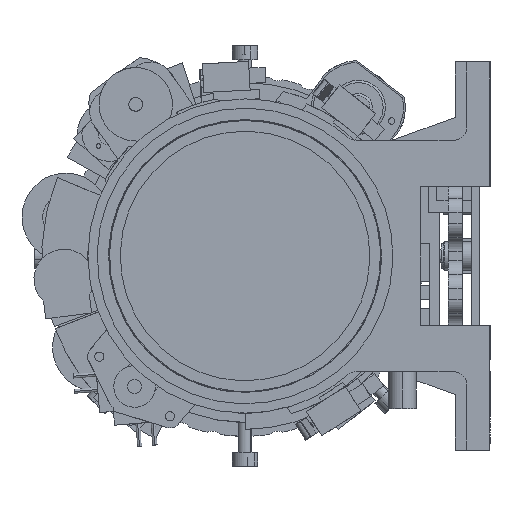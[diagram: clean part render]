
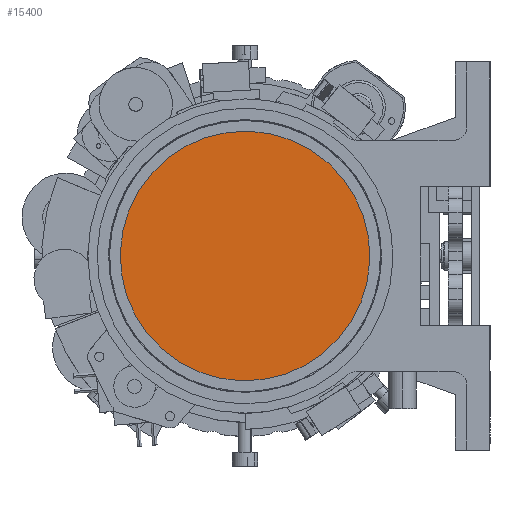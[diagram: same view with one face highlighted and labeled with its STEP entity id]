
A CAD part, left-side view. The second image highlights one B-rep face of the part: STEP entity #15400.
In plain terms, the highlighted planar face has unit normal (-1, 0, 0) as drawn and (0, -1, 0) by its records, which use the part's own axes.
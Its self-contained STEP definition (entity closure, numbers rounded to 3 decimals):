
#312 = EDGE_LOOP ( 'NONE', ( #38614, #4082 ) ) ;
#712 = PLANE ( 'NONE',  #49078 ) ;
#3543 = DIRECTION ( 'NONE',  ( 0., 0., -1. ) ) ;
#4082 = ORIENTED_EDGE ( 'NONE', *, *, #33026, .T. ) ;
#5006 = VERTEX_POINT ( 'NONE', #8285 ) ;
#8285 = CARTESIAN_POINT ( 'NONE',  ( 0., 2.5, -27. ) ) ;
#10673 = FACE_OUTER_BOUND ( 'NONE', #312, .T. ) ;
#12929 = EDGE_CURVE ( 'NONE', #5006, #42940, #47456, .T. ) ;
#13304 = DIRECTION ( 'NONE',  ( 0., -1., 0. ) ) ;
#15400 = ADVANCED_FACE ( 'NONE', ( #10673 ), #712, .T. ) ;
#17543 = CARTESIAN_POINT ( 'NONE',  ( 0., 2.5, 27. ) ) ;
#20343 = DIRECTION ( 'NONE',  ( 0., -1., 0. ) ) ;
#25783 = AXIS2_PLACEMENT_3D ( 'NONE', #36726, #13304, #40646 ) ;
#26944 = DIRECTION ( 'NONE',  ( 0., -1., 0. ) ) ;
#31987 = CARTESIAN_POINT ( 'NONE',  ( 0., 2.5, 0. ) ) ;
#33009 = AXIS2_PLACEMENT_3D ( 'NONE', #50281, #26944, #3543 ) ;
#33026 = EDGE_CURVE ( 'NONE', #42940, #5006, #41846, .T. ) ;
#36726 = CARTESIAN_POINT ( 'NONE',  ( 0., 2.5, 0. ) ) ;
#38614 = ORIENTED_EDGE ( 'NONE', *, *, #12929, .T. ) ;
#40646 = DIRECTION ( 'NONE',  ( 0., 0., -1. ) ) ;
#41846 = CIRCLE ( 'NONE', #33009, 27. ) ;
#42940 = VERTEX_POINT ( 'NONE', #17543 ) ;
#47456 = CIRCLE ( 'NONE', #25783, 27. ) ;
#47644 = DIRECTION ( 'NONE',  ( 0., 0., -1. ) ) ;
#49078 = AXIS2_PLACEMENT_3D ( 'NONE', #31987, #20343, #47644 ) ;
#50281 = CARTESIAN_POINT ( 'NONE',  ( 0., 2.5, 0. ) ) ;
